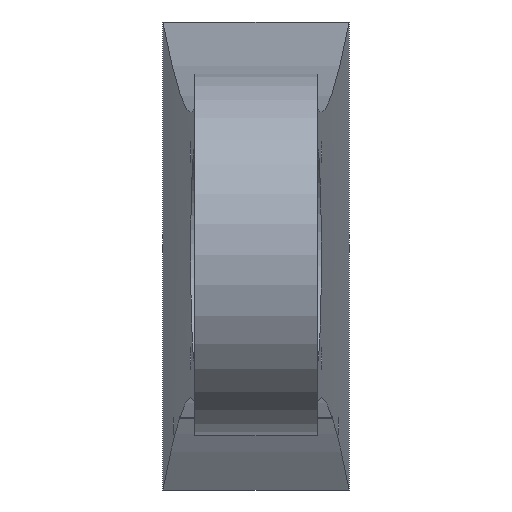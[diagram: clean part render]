
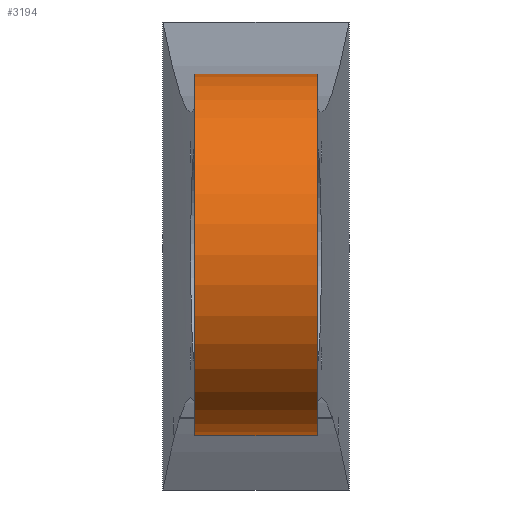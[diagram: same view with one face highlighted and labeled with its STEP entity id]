
A CAD part, top view. The second image highlights one B-rep face of the part: STEP entity #3194.
In plain terms, the highlighted cylindrical face has radius 68 mm (diameter 136 mm), a partial arc.
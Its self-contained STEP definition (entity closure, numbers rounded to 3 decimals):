
#169 = B_SPLINE_SURFACE_WITH_KNOTS('',1,2,(
    (#170,#171,#172)
    ,(#173,#174,#175
    )),.UNSPECIFIED.,.F.,.F.,.F.,(2,2),(3,3),(2.,3.),(0.,1.),
  .PIECEWISE_BEZIER_KNOTS.);
#170 = CARTESIAN_POINT('',(35.,88.,-155.));
#171 = CARTESIAN_POINT('',(27.,46.5,-26.));
#172 = CARTESIAN_POINT('',(23.,55.,87.));
#173 = CARTESIAN_POINT('',(-35.,88.,-155.));
#174 = CARTESIAN_POINT('',(-27.,46.5,-26.));
#175 = CARTESIAN_POINT('',(-23.,55.,87.));
#293 = B_SPLINE_SURFACE_WITH_KNOTS('',1,2,(
    (#294,#295,#296)
    ,(#297,#298,#299
    )),.UNSPECIFIED.,.F.,.F.,.F.,(2,2),(3,3),(0.,1.),(0.,1.),
  .PIECEWISE_BEZIER_KNOTS.);
#294 = CARTESIAN_POINT('',(-35.,-88.,-155.));
#295 = CARTESIAN_POINT('',(-27.,-46.5,-26.));
#296 = CARTESIAN_POINT('',(-23.,-55.,87.));
#297 = CARTESIAN_POINT('',(35.,-88.,-155.));
#298 = CARTESIAN_POINT('',(27.,-46.5,-26.));
#299 = CARTESIAN_POINT('',(23.,-55.,87.));
#322 = PLANE('',#323);
#323 = AXIS2_PLACEMENT_3D('',#324,#325,#326);
#324 = CARTESIAN_POINT('',(-23.,0.,87.));
#325 = DIRECTION('',(1.,0.,0.));
#326 = DIRECTION('',(-0.,0.,1.));
#1488 = PLANE('',#1489);
#1489 = AXIS2_PLACEMENT_3D('',#1490,#1491,#1492);
#1490 = CARTESIAN_POINT('',(23.,0.,87.));
#1491 = DIRECTION('',(1.,0.,0.));
#1492 = DIRECTION('',(-0.,0.,1.));
#2523 = VERTEX_POINT('',#2524);
#2524 = CARTESIAN_POINT('',(-23.,53.563,45.108));
#2557 = EDGE_CURVE('',#2523,#2558,#2560,.T.);
#2558 = VERTEX_POINT('',#2559);
#2559 = CARTESIAN_POINT('',(23.,53.563,45.108));
#2560 = SURFACE_CURVE('',#2561,(#2567,#2576),.PCURVE_S1.);
#2561 = B_SPLINE_CURVE_WITH_KNOTS('',4,(#2562,#2563,#2564,#2565,#2566),
  .UNSPECIFIED.,.F.,.F.,(5,5),(0.,1.),.PIECEWISE_BEZIER_KNOTS.);
#2562 = CARTESIAN_POINT('',(-23.,53.563,45.108)
  );
#2563 = CARTESIAN_POINT('',(-11.5,53.563,45.108)
  );
#2564 = CARTESIAN_POINT('',(0.,53.563,
    45.108));
#2565 = CARTESIAN_POINT('',(11.5,53.563,45.108)
  );
#2566 = CARTESIAN_POINT('',(23.,53.563,45.108)
  );
#2567 = PCURVE('',#169,#2568);
#2568 = DEFINITIONAL_REPRESENTATION('',(#2569),#2575);
#2569 = B_SPLINE_CURVE_WITH_KNOTS('',4,(#2570,#2571,#2572,#2573,#2574),
  .UNSPECIFIED.,.F.,.F.,(5,5),(0.,1.),.PIECEWISE_BEZIER_KNOTS.);
#2570 = CARTESIAN_POINT('',(2.968,0.817));
#2571 = CARTESIAN_POINT('',(2.734,0.817));
#2572 = CARTESIAN_POINT('',(2.5,0.817));
#2573 = CARTESIAN_POINT('',(2.266,0.817));
#2574 = CARTESIAN_POINT('',(2.032,0.817));
#2575 = ( GEOMETRIC_REPRESENTATION_CONTEXT(2) 
PARAMETRIC_REPRESENTATION_CONTEXT() REPRESENTATION_CONTEXT('2D SPACE',''
  ) );
#2576 = PCURVE('',#2577,#2582);
#2577 = CYLINDRICAL_SURFACE('',#2578,68.);
#2578 = AXIS2_PLACEMENT_3D('',#2579,#2580,#2581);
#2579 = CARTESIAN_POINT('',(-23.,0.,87.));
#2580 = DIRECTION('',(-1.,-0.,-0.));
#2581 = DIRECTION('',(0.,1.,0.));
#2582 = DEFINITIONAL_REPRESENTATION('',(#2583),#2589);
#2583 = B_SPLINE_CURVE_WITH_KNOTS('',4,(#2584,#2585,#2586,#2587,#2588),
  .UNSPECIFIED.,.F.,.F.,(5,5),(0.,1.),.PIECEWISE_BEZIER_KNOTS.);
#2584 = CARTESIAN_POINT('',(-5.619,0.));
#2585 = CARTESIAN_POINT('',(-5.619,-11.5));
#2586 = CARTESIAN_POINT('',(-5.619,-23.));
#2587 = CARTESIAN_POINT('',(-5.619,-34.5));
#2588 = CARTESIAN_POINT('',(-5.619,-46.));
#2589 = ( GEOMETRIC_REPRESENTATION_CONTEXT(2) 
PARAMETRIC_REPRESENTATION_CONTEXT() REPRESENTATION_CONTEXT('2D SPACE',''
  ) );
#2628 = EDGE_CURVE('',#2629,#2523,#2631,.T.);
#2629 = VERTEX_POINT('',#2630);
#2630 = CARTESIAN_POINT('',(-23.,-53.563,45.108));
#2631 = SURFACE_CURVE('',#2632,(#2637,#2648),.PCURVE_S1.);
#2632 = CIRCLE('',#2633,68.);
#2633 = AXIS2_PLACEMENT_3D('',#2634,#2635,#2636);
#2634 = CARTESIAN_POINT('',(-23.,0.,87.));
#2635 = DIRECTION('',(-1.,-0.,0.));
#2636 = DIRECTION('',(0.,-0.788,-0.616));
#2637 = PCURVE('',#322,#2638);
#2638 = DEFINITIONAL_REPRESENTATION('',(#2639),#2647);
#2639 = ( BOUNDED_CURVE() B_SPLINE_CURVE(2,(#2640,#2641,#2642,#2643,
#2644,#2645,#2646),.UNSPECIFIED.,.T.,.F.) B_SPLINE_CURVE_WITH_KNOTS((1,2
    ,2,2,2,1),(-2.094,0.,2.094,4.189,
6.283,8.378),.UNSPECIFIED.) CURVE() 
GEOMETRIC_REPRESENTATION_ITEM() RATIONAL_B_SPLINE_CURVE((1.,0.5,1.,0.5,
1.,0.5,1.)) REPRESENTATION_ITEM('') );
#2640 = CARTESIAN_POINT('',(-41.892,53.563));
#2641 = CARTESIAN_POINT('',(50.882,126.123));
#2642 = CARTESIAN_POINT('',(67.333,9.498));
#2643 = CARTESIAN_POINT('',(83.784,-107.127));
#2644 = CARTESIAN_POINT('',(-25.441,-63.061));
#2645 = CARTESIAN_POINT('',(-134.667,-18.996));
#2646 = CARTESIAN_POINT('',(-41.892,53.563));
#2647 = ( GEOMETRIC_REPRESENTATION_CONTEXT(2) 
PARAMETRIC_REPRESENTATION_CONTEXT() REPRESENTATION_CONTEXT('2D SPACE',''
  ) );
#2648 = PCURVE('',#2577,#2649);
#2649 = DEFINITIONAL_REPRESENTATION('',(#2650),#2654);
#2650 = LINE('',#2651,#2652);
#2651 = CARTESIAN_POINT('',(-10.089,0.));
#2652 = VECTOR('',#2653,1.);
#2653 = DIRECTION('',(1.,-0.));
#2654 = ( GEOMETRIC_REPRESENTATION_CONTEXT(2) 
PARAMETRIC_REPRESENTATION_CONTEXT() REPRESENTATION_CONTEXT('2D SPACE',''
  ) );
#2848 = VERTEX_POINT('',#2849);
#2849 = CARTESIAN_POINT('',(23.,-53.563,45.108));
#2882 = EDGE_CURVE('',#2848,#2629,#2883,.T.);
#2883 = SURFACE_CURVE('',#2884,(#2890,#2899),.PCURVE_S1.);
#2884 = B_SPLINE_CURVE_WITH_KNOTS('',4,(#2885,#2886,#2887,#2888,#2889),
  .UNSPECIFIED.,.F.,.F.,(5,5),(0.,1.),.PIECEWISE_BEZIER_KNOTS.);
#2885 = CARTESIAN_POINT('',(23.,-53.563,45.108)
  );
#2886 = CARTESIAN_POINT('',(11.5,-53.563,45.108)
  );
#2887 = CARTESIAN_POINT('',(0.,-53.563,
    45.108));
#2888 = CARTESIAN_POINT('',(-11.5,-53.563,45.108)
  );
#2889 = CARTESIAN_POINT('',(-23.,-53.563,45.108)
  );
#2890 = PCURVE('',#293,#2891);
#2891 = DEFINITIONAL_REPRESENTATION('',(#2892),#2898);
#2892 = B_SPLINE_CURVE_WITH_KNOTS('',4,(#2893,#2894,#2895,#2896,#2897),
  .UNSPECIFIED.,.F.,.F.,(5,5),(0.,1.),.PIECEWISE_BEZIER_KNOTS.);
#2893 = CARTESIAN_POINT('',(0.968,0.817));
#2894 = CARTESIAN_POINT('',(0.734,0.817));
#2895 = CARTESIAN_POINT('',(0.5,0.817));
#2896 = CARTESIAN_POINT('',(0.266,0.817));
#2897 = CARTESIAN_POINT('',(0.032,0.817));
#2898 = ( GEOMETRIC_REPRESENTATION_CONTEXT(2) 
PARAMETRIC_REPRESENTATION_CONTEXT() REPRESENTATION_CONTEXT('2D SPACE',''
  ) );
#2899 = PCURVE('',#2577,#2900);
#2900 = DEFINITIONAL_REPRESENTATION('',(#2901),#2907);
#2901 = B_SPLINE_CURVE_WITH_KNOTS('',4,(#2902,#2903,#2904,#2905,#2906),
  .UNSPECIFIED.,.F.,.F.,(5,5),(0.,1.),.PIECEWISE_BEZIER_KNOTS.);
#2902 = CARTESIAN_POINT('',(-10.089,-46.));
#2903 = CARTESIAN_POINT('',(-10.089,-34.5));
#2904 = CARTESIAN_POINT('',(-10.089,-23.));
#2905 = CARTESIAN_POINT('',(-10.089,-11.5));
#2906 = CARTESIAN_POINT('',(-10.089,0.));
#2907 = ( GEOMETRIC_REPRESENTATION_CONTEXT(2) 
PARAMETRIC_REPRESENTATION_CONTEXT() REPRESENTATION_CONTEXT('2D SPACE',''
  ) );
#2995 = EDGE_CURVE('',#2848,#2558,#2996,.T.);
#2996 = SURFACE_CURVE('',#2997,(#3002,#3013),.PCURVE_S1.);
#2997 = CIRCLE('',#2998,68.);
#2998 = AXIS2_PLACEMENT_3D('',#2999,#3000,#3001);
#2999 = CARTESIAN_POINT('',(23.,0.,87.));
#3000 = DIRECTION('',(-1.,-0.,0.));
#3001 = DIRECTION('',(0.,-0.788,-0.616));
#3002 = PCURVE('',#1488,#3003);
#3003 = DEFINITIONAL_REPRESENTATION('',(#3004),#3012);
#3004 = ( BOUNDED_CURVE() B_SPLINE_CURVE(2,(#3005,#3006,#3007,#3008,
#3009,#3010,#3011),.UNSPECIFIED.,.T.,.F.) B_SPLINE_CURVE_WITH_KNOTS((1,2
    ,2,2,2,1),(-2.094,0.,2.094,4.189,
6.283,8.378),.UNSPECIFIED.) CURVE() 
GEOMETRIC_REPRESENTATION_ITEM() RATIONAL_B_SPLINE_CURVE((1.,0.5,1.,0.5,
1.,0.5,1.)) REPRESENTATION_ITEM('') );
#3005 = CARTESIAN_POINT('',(-41.892,53.563));
#3006 = CARTESIAN_POINT('',(50.882,126.123));
#3007 = CARTESIAN_POINT('',(67.333,9.498));
#3008 = CARTESIAN_POINT('',(83.784,-107.127));
#3009 = CARTESIAN_POINT('',(-25.441,-63.061));
#3010 = CARTESIAN_POINT('',(-134.667,-18.996));
#3011 = CARTESIAN_POINT('',(-41.892,53.563));
#3012 = ( GEOMETRIC_REPRESENTATION_CONTEXT(2) 
PARAMETRIC_REPRESENTATION_CONTEXT() REPRESENTATION_CONTEXT('2D SPACE',''
  ) );
#3013 = PCURVE('',#2577,#3014);
#3014 = DEFINITIONAL_REPRESENTATION('',(#3015),#3019);
#3015 = LINE('',#3016,#3017);
#3016 = CARTESIAN_POINT('',(-10.089,-46.));
#3017 = VECTOR('',#3018,1.);
#3018 = DIRECTION('',(1.,-0.));
#3019 = ( GEOMETRIC_REPRESENTATION_CONTEXT(2) 
PARAMETRIC_REPRESENTATION_CONTEXT() REPRESENTATION_CONTEXT('2D SPACE',''
  ) );
#3194 = ADVANCED_FACE('',(#3195),#2577,.T.);
#3195 = FACE_BOUND('',#3196,.F.);
#3196 = EDGE_LOOP('',(#3197,#3198,#3199,#3200));
#3197 = ORIENTED_EDGE('',*,*,#2628,.T.);
#3198 = ORIENTED_EDGE('',*,*,#2557,.T.);
#3199 = ORIENTED_EDGE('',*,*,#2995,.F.);
#3200 = ORIENTED_EDGE('',*,*,#2882,.T.);
